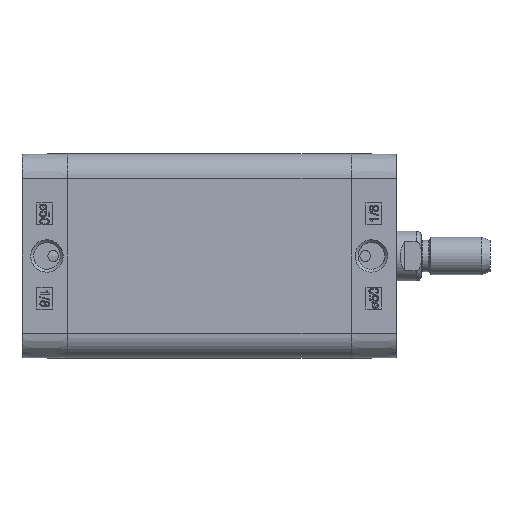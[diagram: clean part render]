
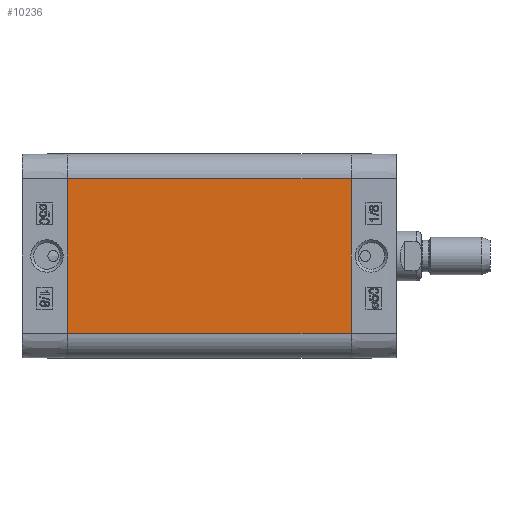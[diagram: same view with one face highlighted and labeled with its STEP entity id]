
A CAD part, left-side view. The second image highlights one B-rep face of the part: STEP entity #10236.
In plain terms, the highlighted planar face has unit normal (-1, 0, 0).
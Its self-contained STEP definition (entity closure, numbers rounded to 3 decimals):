
#5238=CARTESIAN_POINT('',(-32.75,-91.0,24.75));
#5239=VERTEX_POINT('',#5238);
#5246=CARTESIAN_POINT('',(-32.75,-91.0,-24.75));
#5247=VERTEX_POINT('',#5246);
#5248=CARTESIAN_POINT('',(-32.75,-91.0,-24.75));
#5249=DIRECTION('',(0.0,0.0,1.0));
#5250=VECTOR('',#5249,49.5);
#5251=LINE('',#5248,#5250);
#5252=EDGE_CURVE('',#5247,#5239,#5251,.T.);
#10194=CARTESIAN_POINT('',(-32.75,0.0,-24.75));
#10195=VERTEX_POINT('',#10194);
#10196=CARTESIAN_POINT('',(-32.75,0.0,-24.75));
#10197=DIRECTION('',(0.0,-1.0,0.0));
#10198=VECTOR('',#10197,91.0);
#10199=LINE('',#10196,#10198);
#10200=EDGE_CURVE('',#10195,#5247,#10199,.T.);
#10213=CARTESIAN_POINT('',(-32.75,0.0,-24.75));
#10214=DIRECTION('',(-1.0,0.0,0.0));
#10215=DIRECTION('',(0.0,0.0,1.0));
#10216=AXIS2_PLACEMENT_3D('',#10213,#10214,#10215);
#10217=PLANE('',#10216);
#10218=ORIENTED_EDGE('',*,*,#5252,.T.);
#10219=CARTESIAN_POINT('',(-32.75,0.0,24.75));
#10220=VERTEX_POINT('',#10219);
#10221=CARTESIAN_POINT('',(-32.75,0.0,24.75));
#10222=DIRECTION('',(0.0,-1.0,0.0));
#10223=VECTOR('',#10222,91.0);
#10224=LINE('',#10221,#10223);
#10225=EDGE_CURVE('',#10220,#5239,#10224,.T.);
#10226=ORIENTED_EDGE('',*,*,#10225,.F.);
#10227=CARTESIAN_POINT('',(-32.75,0.0,-24.75));
#10228=DIRECTION('',(0.0,0.0,1.0));
#10229=VECTOR('',#10228,49.5);
#10230=LINE('',#10227,#10229);
#10231=EDGE_CURVE('',#10195,#10220,#10230,.T.);
#10232=ORIENTED_EDGE('',*,*,#10231,.F.);
#10233=ORIENTED_EDGE('',*,*,#10200,.T.);
#10234=EDGE_LOOP('',(#10218,#10226,#10232,#10233));
#10235=FACE_OUTER_BOUND('',#10234,.T.);
#10236=ADVANCED_FACE('',(#10235),#10217,.T.);
